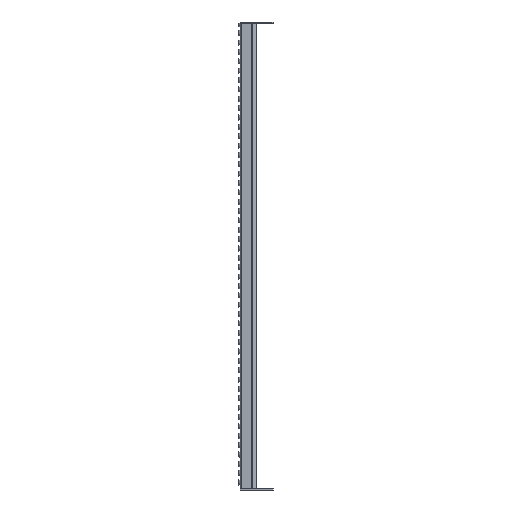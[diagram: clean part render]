
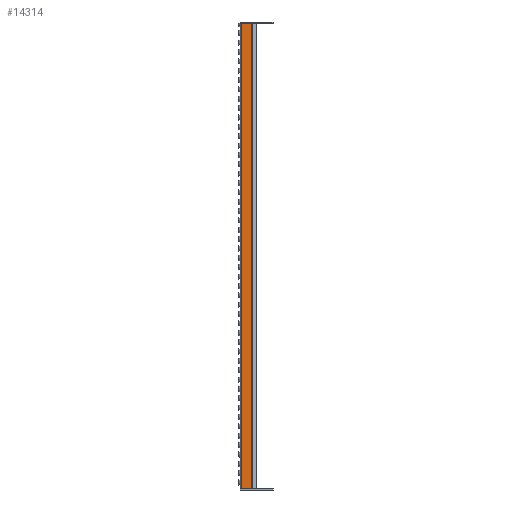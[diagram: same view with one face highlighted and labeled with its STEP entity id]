
A CAD part, left-side view. The second image highlights one B-rep face of the part: STEP entity #14314.
In plain terms, the highlighted planar face has unit normal (-1, 0, 0).
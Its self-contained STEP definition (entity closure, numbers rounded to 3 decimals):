
#2137=FACE_OUTER_BOUND('',#3288,.T.);
#3288=EDGE_LOOP('',(#12301,#12302,#12303,#12304));
#4335=LINE('',#27402,#5659);
#4346=LINE('',#27432,#5670);
#4356=LINE('',#27455,#5680);
#4363=LINE('',#27470,#5687);
#5659=VECTOR('',#19168,10.);
#5670=VECTOR('',#19193,10.);
#5680=VECTOR('',#19215,10.);
#5687=VECTOR('',#19234,10.);
#7116=VERTEX_POINT('',#27399);
#7117=VERTEX_POINT('',#27401);
#7129=VERTEX_POINT('',#27431);
#7136=VERTEX_POINT('',#27454);
#8869=EDGE_CURVE('',#7117,#7116,#4335,.T.);
#8884=EDGE_CURVE('',#7116,#7129,#4346,.T.);
#8896=EDGE_CURVE('',#7136,#7117,#4356,.T.);
#8904=EDGE_CURVE('',#7129,#7136,#4363,.T.);
#12301=ORIENTED_EDGE('',*,*,#8884,.T.);
#12302=ORIENTED_EDGE('',*,*,#8904,.T.);
#12303=ORIENTED_EDGE('',*,*,#8896,.T.);
#12304=ORIENTED_EDGE('',*,*,#8869,.T.);
#13385=PLANE('',#15795);
#14314=ADVANCED_FACE('',(#2137),#13385,.T.);
#15795=AXIS2_PLACEMENT_3D('',#27471,#19235,#19236);
#19168=DIRECTION('',(0.,1.,0.));
#19193=DIRECTION('',(0.,0.,-1.));
#19215=DIRECTION('',(0.,0.,1.));
#19234=DIRECTION('',(0.,-1.,0.));
#19235=DIRECTION('center_axis',(-1.,0.,0.));
#19236=DIRECTION('ref_axis',(0.,0.,1.));
#27399=CARTESIAN_POINT('',(0.,-3.25,994.));
#27401=CARTESIAN_POINT('',(0.,-24.427,994.));
#27402=CARTESIAN_POINT('',(0.,0.,994.));
#27431=CARTESIAN_POINT('',(0.,-3.25,0.));
#27432=CARTESIAN_POINT('',(0.,-3.25,0.));
#27454=CARTESIAN_POINT('',(0.,-24.427,0.));
#27455=CARTESIAN_POINT('',(0.,-24.427,248.5));
#27470=CARTESIAN_POINT('',(0.,0.,0.));
#27471=CARTESIAN_POINT('Origin',(0.,-25.,0.));
